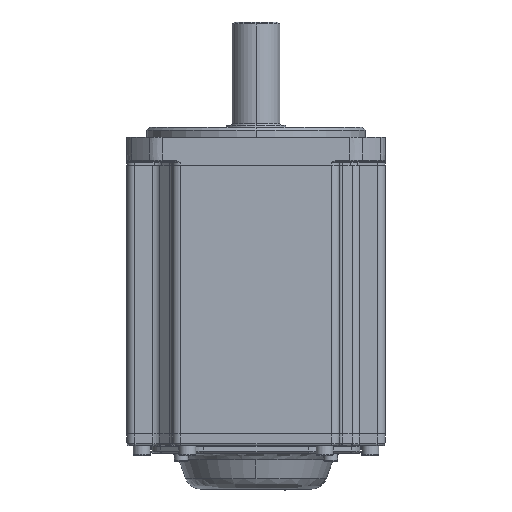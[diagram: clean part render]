
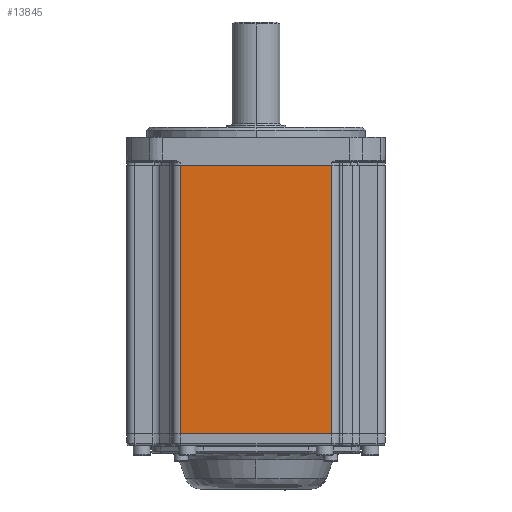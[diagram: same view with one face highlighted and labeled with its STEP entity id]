
A CAD part, front view. The second image highlights one B-rep face of the part: STEP entity #13845.
In plain terms, the highlighted planar face has unit normal (0, -1, 0).
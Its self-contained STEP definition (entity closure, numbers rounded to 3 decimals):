
#514 = LINE ( 'NONE', #54997, #39547 ) ;
#671 = ORIENTED_EDGE ( 'NONE', *, *, #3391, .T. ) ;
#1712 = VERTEX_POINT ( 'NONE', #15766 ) ;
#3391 = EDGE_CURVE ( 'NONE', #5937, #1712, #45365, .T. ) ;
#3986 = CARTESIAN_POINT ( 'NONE',  ( -38., -65., -87.2 ) ) ;
#4913 = CARTESIAN_POINT ( 'NONE',  ( 38., -65., 912.8 ) ) ;
#5169 = VERTEX_POINT ( 'NONE', #3986 ) ;
#5937 = VERTEX_POINT ( 'NONE', #60316 ) ;
#7008 = VECTOR ( 'NONE', #33678, 1000. ) ;
#9648 = FACE_OUTER_BOUND ( 'NONE', #26011, .T. ) ;
#10237 = LINE ( 'NONE', #21577, #41824 ) ;
#10583 = EDGE_CURVE ( 'NONE', #17062, #5169, #514, .T. ) ;
#13446 = ORIENTED_EDGE ( 'NONE', *, *, #10583, .T. ) ;
#13845 = ADVANCED_FACE ( 'NONE', ( #9648 ), #16790, .F. ) ;
#15766 = CARTESIAN_POINT ( 'NONE',  ( 38., -65., 47.8 ) ) ;
#16790 = PLANE ( 'NONE',  #23148 ) ;
#17062 = VERTEX_POINT ( 'NONE', #59251 ) ;
#20968 = VECTOR ( 'NONE', #56590, 1000. ) ;
#21577 = CARTESIAN_POINT ( 'NONE',  ( -42., -65., 47.8 ) ) ;
#23148 = AXIS2_PLACEMENT_3D ( 'NONE', #45814, #31506, #26691 ) ;
#23463 = ORIENTED_EDGE ( 'NONE', *, *, #25302, .F. ) ;
#25302 = EDGE_CURVE ( 'NONE', #17062, #1712, #10237, .T. ) ;
#26011 = EDGE_LOOP ( 'NONE', ( #23463, #13446, #59469, #671 ) ) ;
#26691 = DIRECTION ( 'NONE',  ( 0., 0., 1. ) ) ;
#27949 = CARTESIAN_POINT ( 'NONE',  ( -42., -65., -87.2 ) ) ;
#31506 = DIRECTION ( 'NONE',  ( 0., 1., 0. ) ) ;
#31677 = DIRECTION ( 'NONE',  ( 1., 0., 0. ) ) ;
#33678 = DIRECTION ( 'NONE',  ( 0., 0., 1. ) ) ;
#33746 = LINE ( 'NONE', #27949, #20968 ) ;
#35376 = DIRECTION ( 'NONE',  ( 0., 0., -1. ) ) ;
#35524 = EDGE_CURVE ( 'NONE', #5169, #5937, #33746, .T. ) ;
#39547 = VECTOR ( 'NONE', #35376, 1000. ) ;
#41824 = VECTOR ( 'NONE', #31677, 1000. ) ;
#45365 = LINE ( 'NONE', #4913, #7008 ) ;
#45814 = CARTESIAN_POINT ( 'NONE',  ( -42., -65., 912.8 ) ) ;
#54997 = CARTESIAN_POINT ( 'NONE',  ( -38., -65., 912.8 ) ) ;
#56590 = DIRECTION ( 'NONE',  ( 1., 0., 0. ) ) ;
#59251 = CARTESIAN_POINT ( 'NONE',  ( -38., -65., 47.8 ) ) ;
#59469 = ORIENTED_EDGE ( 'NONE', *, *, #35524, .T. ) ;
#60316 = CARTESIAN_POINT ( 'NONE',  ( 38., -65., -87.2 ) ) ;
